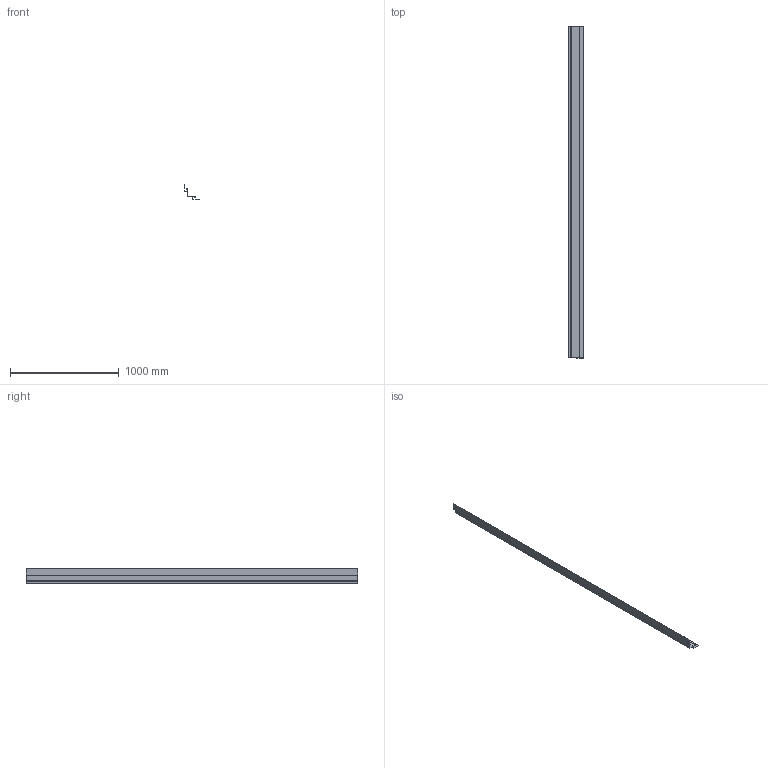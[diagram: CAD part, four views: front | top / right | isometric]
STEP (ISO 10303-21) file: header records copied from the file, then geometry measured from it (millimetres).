
FILE_DESCRIPTION(/* description */ (''),/* implementation_level */ '2;1');
FILE_NAME(/* name */ 'C:\Users\Utilisateur\Documents\Développement Profilés-Moulures\Board & Batten\Fichiers STEP\Moulures\STEP\Fichiers STEP (Cahier de moulures)\Coin intérieur.stp',/* time_stamp */ '2022-05-19T22:53:14-04:00',/* author */ ('Utilisateur'),/* organization */ (''),/* preprocessor_version */ 'ST-DEVELOPER v18.1',/* originating_system */ 'Autodesk Inventor 2021',/* authorisation */ '');
FILE_SCHEMA (('AUTOMOTIVE_DESIGN { 1 0 10303 214 3 1 1 }'));
Length unit declared in the file: inch
Products named in the file (1): Coin intérieur
Bounding box: 140.03 x 3048 x 139.56 mm (x, y, z)
Volume: 586892.8 mm3; surface area: 2293778.6 mm2
Topology: 1 solids, 1 shells, 34 faces, 96 edges, 64 vertices
Faces by surface type: plane 20, cylinder 14
Entity records: 1151 total; most frequent: CARTESIAN_POINT 195, DIRECTION 194, ORIENTED_EDGE 192, EDGE_CURVE 96, LINE 68, VECTOR 68, VERTEX_POINT 64, AXIS2_PLACEMENT_3D 63
